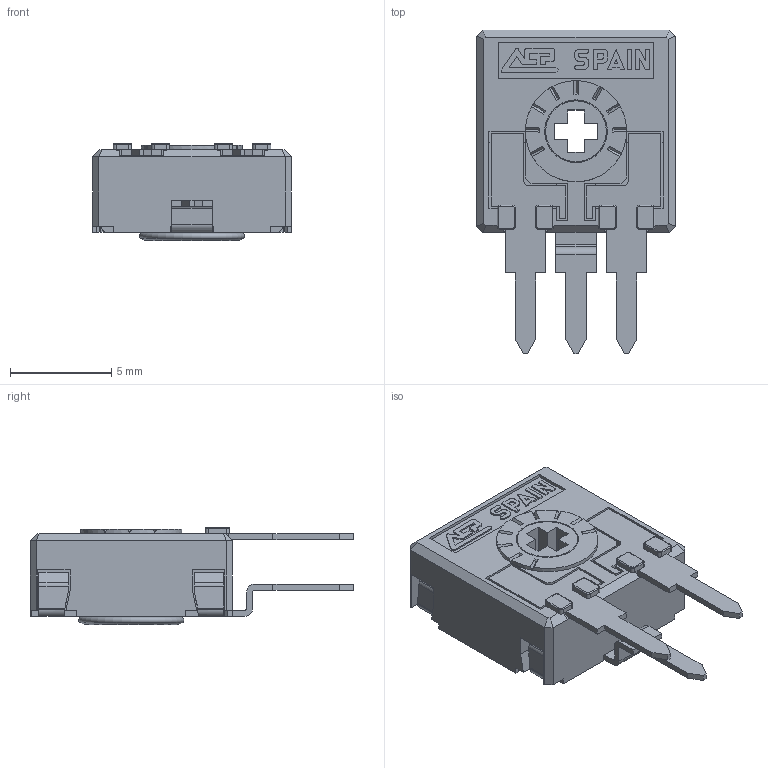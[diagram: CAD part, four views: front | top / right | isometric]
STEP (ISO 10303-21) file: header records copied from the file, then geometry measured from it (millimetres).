
FILE_DESCRIPTION(/* description */ (''),/* implementation_level */ '2;1');
FILE_NAME(/* name */ '\\SERVERACP\intercambio\Ignacio Santa Cecilia\Nueva WEB 2025\CA9 - CE9\CA9RH2,5.stp',/* time_stamp */ '2025-06-03T15:50:56+02:00',/* author */ ('CEM'),/* organization */ (''),/* preprocessor_version */ 'ST-DEVELOPER v17',/* originating_system */ 'Autodesk Inventor 2018',/* authorisation */ '');
FILE_SCHEMA (('AUTOMOTIVE_DESIGN { 1 0 10303 214 3 1 1 }'));
Length unit declared in the file: millimetre
Products named in the file (1): CA9RH2,5
Bounding box: 9.8 x 16 x 4.8 mm (x, y, z)
Volume: 244.2 mm3; surface area: 841.9 mm2
Topology: 2 solids, 2 shells, 598 faces, 1705 edges, 1094 vertices
Faces by surface type: plane 480, cylinder 83, torus 19, cone 16
Full cylindrical faces by diameter (mm): 3 x1, 3.1 x1, 4 x1, 4.8 x1, 5 x1
Entity records: 19464 total; most frequent: CARTESIAN_POINT 3450, ORIENTED_EDGE 3410, DIRECTION 3160, EDGE_CURVE 1705, LINE 1396, VECTOR 1396, VERTEX_POINT 1094, AXIS2_PLACEMENT_3D 882
